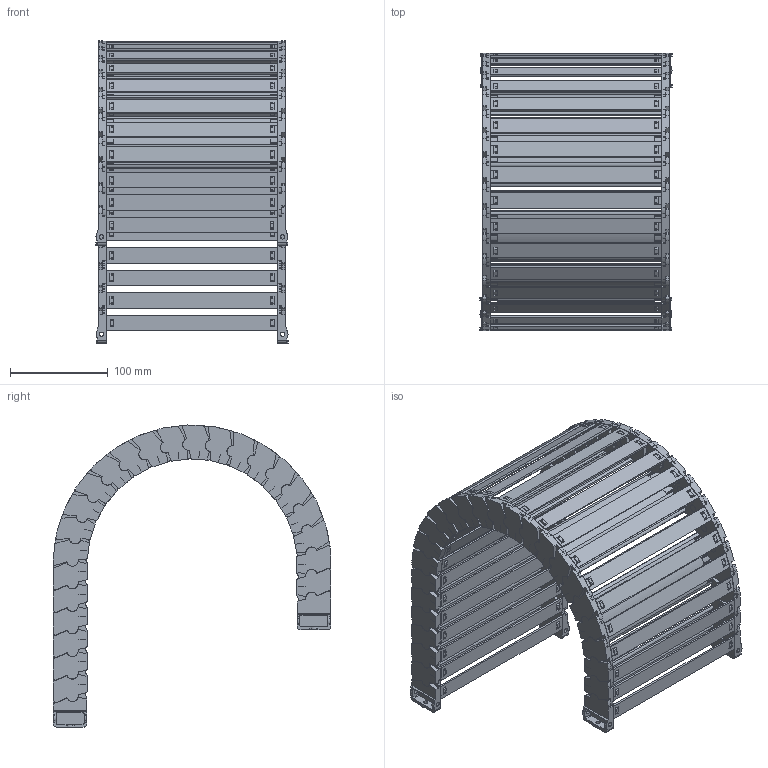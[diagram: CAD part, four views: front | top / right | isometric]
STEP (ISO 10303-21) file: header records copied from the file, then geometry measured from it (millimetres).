
FILE_DESCRIPTION((''),'2;1');
FILE_NAME('JY-25X175-R125_ASM','2026-05-04T14:04:11',('admin'),(''),'CREO PARAMETRIC BY PTC INC, 2021023','CREO PARAMETRIC BY PTC INC, 2021023','');
FILE_SCHEMA(('CONFIG_CONTROL_DESIGN'));
Length unit declared in the file: millimetre
Products named in the file (11): 25XL-L; 25-35XL-YP; 25XL-R; ASM0001_ASM; 25-LTT-A-L; 25-LTT-A-R; 25XL-LTT-A_ASM; 25-LTT-B-L; 25-LTT-B-R; 25XL-LTT-B_ASM; JY-25X175-R125_ASM
Assembly tree (38 placements, depth 3):
  JY-25X175-R125_ASM
    ASM0001_ASM  x24
      25XL-L
      25-35XL-YP
      25XL-R
    25XL-LTT-A_ASM
      25-LTT-A-L
      25-35XL-YP  x2
      25-LTT-A-R
    25XL-LTT-B_ASM
      25-LTT-B-L
      25-35XL-YP  x2
      25-LTT-B-R
Bounding box: 196.68 x 284.61 x 309.36 mm (x, y, z)
Volume: 761334.7 mm3; surface area: 552911.4 mm2
Topology: 104 solids, 128 shells, 5398 faces, 16134 edges, 10918 vertices
Faces by surface type: plane 3982, cylinder 1368, cone 48
Entity records: 17483 total; most frequent: CARTESIAN_POINT 3076, DIRECTION 3027, ORIENTED_EDGE 2962, EDGE_CURVE 1483, VECTOR 1053, LINE 1053, VERTEX_POINT 1004, AXIS2_PLACEMENT_3D 987
